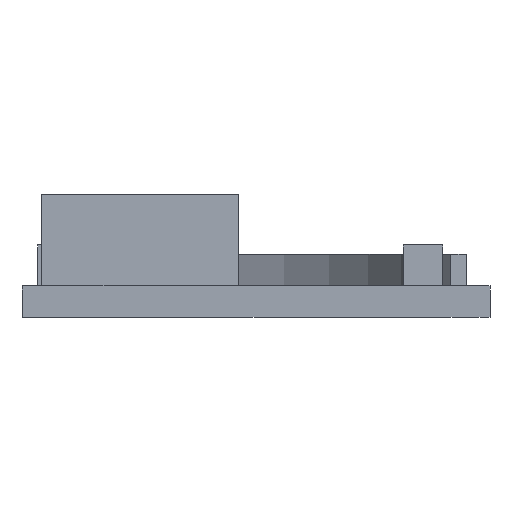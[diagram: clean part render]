
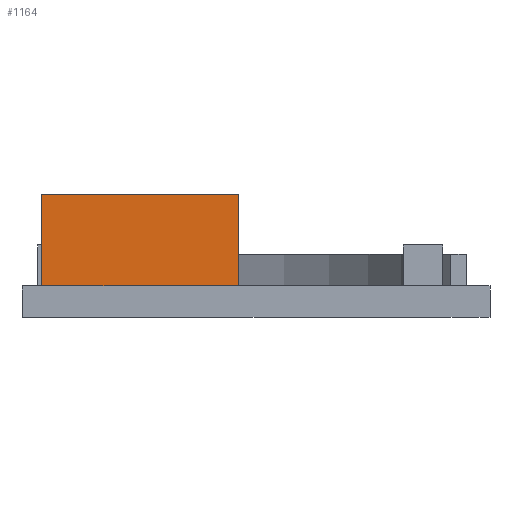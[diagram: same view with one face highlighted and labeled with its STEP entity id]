
A CAD part, front view. The second image highlights one B-rep face of the part: STEP entity #1164.
In plain terms, the highlighted planar face has unit normal (0, -1, 0).
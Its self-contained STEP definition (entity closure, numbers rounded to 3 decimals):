
#21 = ORIENTED_EDGE ( 'NONE', *, *, #1250, .T. ) ;
#46 = VERTEX_POINT ( 'NONE', #1088 ) ;
#69 = VERTEX_POINT ( 'NONE', #1105 ) ;
#267 = CARTESIAN_POINT ( 'NONE',  ( 0., 1.25, 7.8 ) ) ;
#281 = DIRECTION ( 'NONE',  ( 0., 1., 0. ) ) ;
#351 = LINE ( 'NONE', #432, #445 ) ;
#373 = DIRECTION ( 'NONE',  ( 1., 0., 0. ) ) ;
#398 = EDGE_LOOP ( 'NONE', ( #575, #559, #524, #21 ) ) ;
#414 = EDGE_CURVE ( 'NONE', #846, #46, #891, .T. ) ;
#432 = CARTESIAN_POINT ( 'NONE',  ( 0., 1.25, 2. ) ) ;
#445 = VECTOR ( 'NONE', #731, 1000. ) ;
#449 = CARTESIAN_POINT ( 'NONE',  ( 0., 1.25, 31.278 ) ) ;
#524 = ORIENTED_EDGE ( 'NONE', *, *, #803, .F. ) ;
#548 = EDGE_CURVE ( 'NONE', #46, #990, #351, .T. ) ;
#559 = ORIENTED_EDGE ( 'NONE', *, *, #414, .F. ) ;
#575 = ORIENTED_EDGE ( 'NONE', *, *, #548, .F. ) ;
#581 = DIRECTION ( 'NONE',  ( 0., 0., -1. ) ) ;
#590 = DIRECTION ( 'NONE',  ( 0., 0., -1. ) ) ;
#699 = VECTOR ( 'NONE', #373, 1000. ) ;
#731 = DIRECTION ( 'NONE',  ( -1., 0., 0. ) ) ;
#803 = EDGE_CURVE ( 'NONE', #69, #846, #1146, .T. ) ;
#846 = VERTEX_POINT ( 'NONE', #1070 ) ;
#891 = LINE ( 'NONE', #1096, #976 ) ;
#938 = VECTOR ( 'NONE', #581, 1000. ) ;
#976 = VECTOR ( 'NONE', #590, 1000. ) ;
#990 = VERTEX_POINT ( 'NONE', #1225 ) ;
#1044 = FACE_OUTER_BOUND ( 'NONE', #398, .T. ) ;
#1070 = CARTESIAN_POINT ( 'NONE',  ( 13.75, 1.25, 7.8 ) ) ;
#1088 = CARTESIAN_POINT ( 'NONE',  ( 13.75, 1.25, 2. ) ) ;
#1096 = CARTESIAN_POINT ( 'NONE',  ( 13.75, 1.25, 31.278 ) ) ;
#1105 = CARTESIAN_POINT ( 'NONE',  ( 1.25, 1.25, 7.8 ) ) ;
#1134 = PLANE ( 'NONE',  #1263 ) ;
#1145 = DIRECTION ( 'NONE',  ( -1., 0., 0. ) ) ;
#1146 = LINE ( 'NONE', #267, #699 ) ;
#1164 = ADVANCED_FACE ( 'NONE', ( #1044 ), #1134, .F. ) ;
#1208 = LINE ( 'NONE', #1268, #938 ) ;
#1225 = CARTESIAN_POINT ( 'NONE',  ( 1.25, 1.25, 2. ) ) ;
#1250 = EDGE_CURVE ( 'NONE', #69, #990, #1208, .T. ) ;
#1263 = AXIS2_PLACEMENT_3D ( 'NONE', #449, #281, #1145 ) ;
#1268 = CARTESIAN_POINT ( 'NONE',  ( 1.25, 1.25, 31.278 ) ) ;
